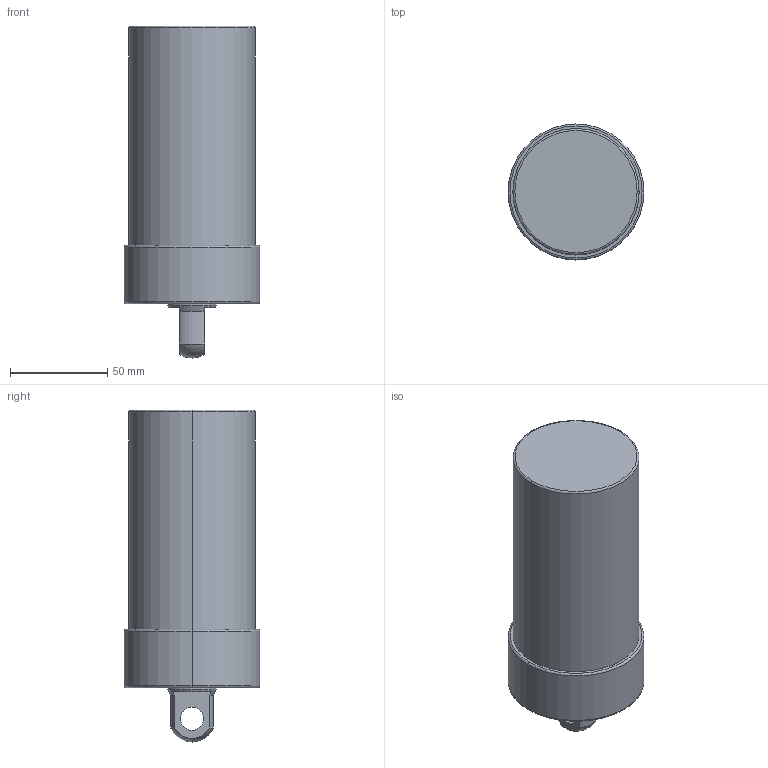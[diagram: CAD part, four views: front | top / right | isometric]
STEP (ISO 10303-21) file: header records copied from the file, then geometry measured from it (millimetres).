
FILE_DESCRIPTION (( 'STEP AP203' ), '1' );
FILE_NAME ('CLLU-065GP-080.STEP', '2020-01-08T00:30:24', ( '' ), ( '' ), 'SwSTEP 2.0', 'SolidWorks 2015', '' );
FILE_SCHEMA (( 'CONFIG_CONTROL_DESIGN' ));
Length unit declared in the file: millimetre
Products named in the file (1): CLLU-065GP-080
Bounding box: 70 x 70 x 171 mm (x, y, z)
Volume: 494507.5 mm3; surface area: 40030.9 mm2
Topology: 1 solids, 1 shells, 57 faces, 130 edges, 75 vertices
Faces by surface type: cylinder 22, cone 18, plane 9, torus 6, sphere 2
Entity records: 1643 total; most frequent: DIRECTION 308, CARTESIAN_POINT 267, ORIENTED_EDGE 244, AXIS2_PLACEMENT_3D 132, EDGE_CURVE 122, VERTEX_POINT 75, CIRCLE 74, EDGE_LOOP 67
